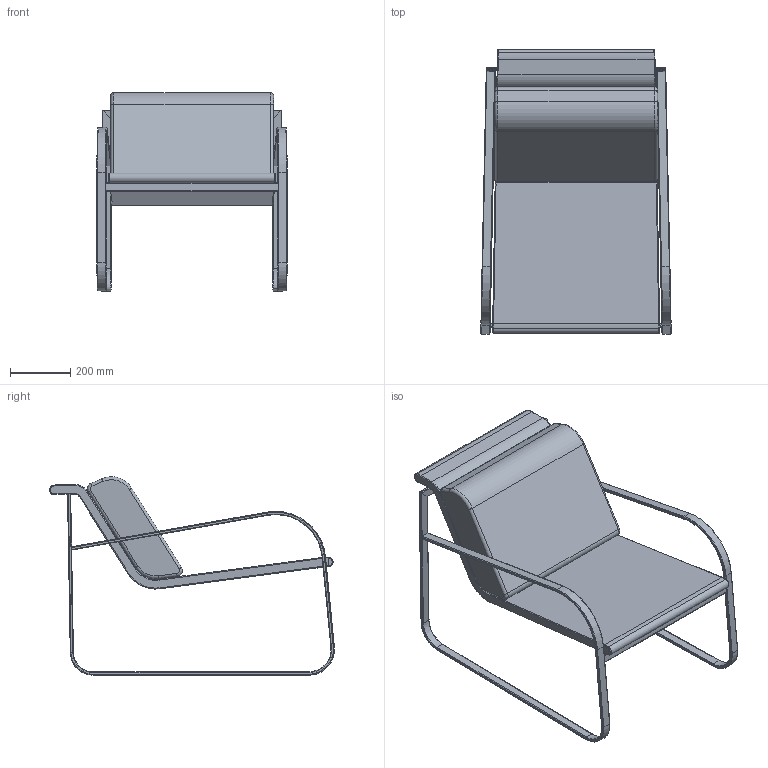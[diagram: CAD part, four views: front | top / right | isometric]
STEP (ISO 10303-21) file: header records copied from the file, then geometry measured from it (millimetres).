
FILE_DESCRIPTION((''),'2;1');
FILE_NAME('C:\AutodeskVault\AreaLavoro\Progetti\SoVeT Italia\4. Complementi_Accessorizes\Bugatti\Web file\Bugatti Web\P2010.stp','2012-10-08T16:59:08',('Gianluca'),('So.Ve.T. s.r.l.'),'Autodesk Inventor 2013','Autodesk Inventor 2013','IL PROGETTO E'' DI ESCLUSIVA PROPRIETA'' DELLA SO.VE.T. srl. E'' VIETATA OGNI RIPRODUZIONE TOTALE O PARZIALE E QUALSIASI UTILIZZO NON AUTORIZZATO.');
FILE_SCHEMA(('AUTOMOTIVE_DESIGN { 1 0 10303 214 1 1 1 1 }'));
Length unit declared in the file: millimetre
Products named in the file (1): P2010 Contorno semplificato
Bounding box: 630.3 x 944.31 x 657.68 mm (x, y, z)
Volume: 47206680.8 mm3; surface area: 2068635.2 mm2
Topology: 1 solids, 1 shells, 266 faces, 650 edges, 370 vertices
Faces by surface type: cylinder 90, plane 90, bspline 32, torus 30, cone 24
Entity records: 9105 total; most frequent: CARTESIAN_POINT 2558, DIRECTION 1365, ORIENTED_EDGE 1294, EDGE_CURVE 647, AXIS2_PLACEMENT_3D 517, VERTEX_POINT 370, VECTOR 331, LINE 331
